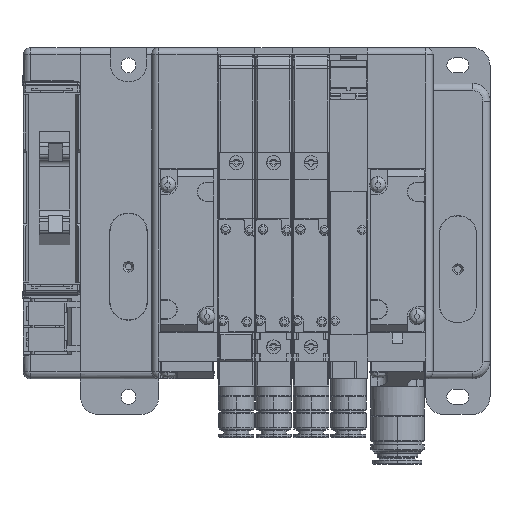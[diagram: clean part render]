
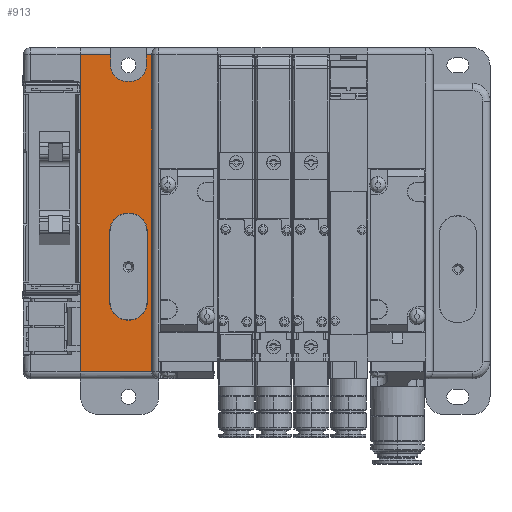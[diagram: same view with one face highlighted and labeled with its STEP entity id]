
A CAD part, front view. The second image highlights one B-rep face of the part: STEP entity #913.
In plain terms, the highlighted planar face has unit normal (0, -1, 0).
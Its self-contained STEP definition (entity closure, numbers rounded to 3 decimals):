
#913=ADVANCED_FACE('',(#2845,#2846),#2844,.F.);
#2844=PLANE('',#21353);
#2845=FACE_OUTER_BOUND('',#21354,.T.);
#2846=FACE_BOUND('',#21355,.T.);
#21350=CARTESIAN_POINT('',(-2.,-35.,-37.7));
#21351=DIRECTION('',(0.,1.,0.));
#21352=DIRECTION('',(0.,0.,1.));
#21353=AXIS2_PLACEMENT_3D('',#21350,#21351,#21352);
#21354=EDGE_LOOP('',(#32394,#32395,#32396,#32397,#32398,#32399,#32400,#32401,#32402,#32403));
#21355=EDGE_LOOP('',(#32404,#32405,#32406,#32407,#32408,#32409,#32410,#32411));
#32394=ORIENTED_EDGE('',*,*,#42188,.T.);
#32395=ORIENTED_EDGE('',*,*,#42183,.F.);
#32396=ORIENTED_EDGE('',*,*,#42180,.T.);
#32397=ORIENTED_EDGE('',*,*,#42177,.F.);
#32398=ORIENTED_EDGE('',*,*,#42173,.T.);
#32399=ORIENTED_EDGE('',*,*,#42214,.T.);
#32400=ORIENTED_EDGE('',*,*,#42215,.T.);
#32401=ORIENTED_EDGE('',*,*,#42216,.F.);
#32402=ORIENTED_EDGE('',*,*,#42217,.F.);
#32403=ORIENTED_EDGE('',*,*,#42218,.T.);
#32404=ORIENTED_EDGE('',*,*,#42219,.F.);
#32405=ORIENTED_EDGE('',*,*,#42220,.F.);
#32406=ORIENTED_EDGE('',*,*,#42221,.F.);
#32407=ORIENTED_EDGE('',*,*,#42222,.F.);
#32408=ORIENTED_EDGE('',*,*,#42223,.F.);
#32409=ORIENTED_EDGE('',*,*,#42224,.F.);
#32410=ORIENTED_EDGE('',*,*,#42225,.F.);
#32411=ORIENTED_EDGE('',*,*,#42226,.F.);
#42173=EDGE_CURVE('',#47116,#47117,#47118,.T.);
#42177=EDGE_CURVE('',#47116,#47143,#47144,.T.);
#42180=EDGE_CURVE('',#47163,#47143,#47164,.T.);
#42183=EDGE_CURVE('',#47163,#47183,#47184,.T.);
#42188=EDGE_CURVE('',#47217,#47183,#47218,.T.);
#42214=EDGE_CURVE('',#47117,#47394,#47395,.T.);
#42215=EDGE_CURVE('',#47394,#47401,#47402,.T.);
#42216=EDGE_CURVE('',#47408,#47401,#47409,.T.);
#42217=EDGE_CURVE('',#47415,#47408,#47416,.T.);
#42218=EDGE_CURVE('',#47415,#47217,#47422,.T.);
#42219=EDGE_CURVE('',#47428,#47429,#47430,.T.);
#42220=EDGE_CURVE('',#47436,#47428,#47437,.T.);
#42221=EDGE_CURVE('',#47443,#47436,#47444,.T.);
#42222=EDGE_CURVE('',#47450,#47443,#47451,.T.);
#42223=EDGE_CURVE('',#47457,#47450,#47458,.T.);
#42224=EDGE_CURVE('',#47464,#47457,#47465,.T.);
#42225=EDGE_CURVE('',#47471,#47464,#47472,.T.);
#42226=EDGE_CURVE('',#47429,#47471,#47478,.T.);
#47116=VERTEX_POINT('',#79967);
#47117=VERTEX_POINT('',#79968);
#47118=LINE('',#79969,#79970);
#47143=VERTEX_POINT('',#79983);
#47144=CIRCLE('',#79987,4.5);
#47163=VERTEX_POINT('',#79996);
#47164=LINE('',#79997,#79998);
#47183=VERTEX_POINT('',#80007);
#47184=CIRCLE('',#80011,4.5);
#47217=VERTEX_POINT('',#80028);
#47218=LINE('',#80029,#80030);
#47394=VERTEX_POINT('',#80133);
#47395=LINE('',#80134,#80135);
#47401=VERTEX_POINT('',#80137);
#47402=LINE('',#80138,#80139);
#47408=VERTEX_POINT('',#80141);
#47409=LINE('',#80142,#80143);
#47415=VERTEX_POINT('',#80145);
#47416=LINE('',#80146,#80147);
#47422=LINE('',#80149,#80150);
#47428=VERTEX_POINT('',#80152);
#47429=VERTEX_POINT('',#80153);
#47430=CIRCLE('',#80157,5.);
#47436=VERTEX_POINT('',#80158);
#47437=LINE('',#80159,#80160);
#47443=VERTEX_POINT('',#80162);
#47444=CIRCLE('',#80166,5.);
#47450=VERTEX_POINT('',#80167);
#47451=LINE('',#80168,#80169);
#47457=VERTEX_POINT('',#80171);
#47458=CIRCLE('',#80175,5.);
#47464=VERTEX_POINT('',#80176);
#47465=LINE('',#80177,#80178);
#47471=VERTEX_POINT('',#80180);
#47472=CIRCLE('',#80184,5.);
#47478=LINE('',#80185,#80186);
#79967=CARTESIAN_POINT('',(8.5,-35.,57.2));
#79968=CARTESIAN_POINT('',(8.5,-35.,60.2));
#79969=CARTESIAN_POINT('',(8.5,-35.,57.2));
#79970=VECTOR('',#79971,3.);
#79971=DIRECTION('',(0.,0.,1.));
#79983=CARTESIAN_POINT('',(13.,-35.,52.7));
#79984=CARTESIAN_POINT('',(13.,-35.,57.2));
#79985=DIRECTION('',(0.,-1.,0.));
#79986=DIRECTION('',(0.,0.,-1.));
#79987=AXIS2_PLACEMENT_3D('',#79984,#79985,#79986);
#79996=CARTESIAN_POINT('',(14.,-35.,52.7));
#79997=CARTESIAN_POINT('',(14.,-35.,52.7));
#79998=VECTOR('',#79999,1.);
#79999=DIRECTION('',(-1.,0.,0.));
#80007=CARTESIAN_POINT('',(18.5,-35.,57.2));
#80008=CARTESIAN_POINT('',(14.,-35.,57.2));
#80009=DIRECTION('',(0.,-1.,0.));
#80010=DIRECTION('',(0.,0.,-1.));
#80011=AXIS2_PLACEMENT_3D('',#80008,#80009,#80010);
#80028=CARTESIAN_POINT('',(18.5,-35.,60.2));
#80029=CARTESIAN_POINT('',(18.5,-35.,60.2));
#80030=VECTOR('',#80031,3.);
#80031=DIRECTION('',(0.,0.,-1.));
#80133=CARTESIAN_POINT('',(0.,-35.,60.2));
#80134=CARTESIAN_POINT('',(8.5,-35.,60.2));
#80135=VECTOR('',#80136,8.5);
#80136=DIRECTION('',(-1.,0.,0.));
#80137=CARTESIAN_POINT('',(0.,-35.,-28.8));
#80138=CARTESIAN_POINT('',(0.,-35.,60.2));
#80139=VECTOR('',#80140,89.);
#80140=DIRECTION('',(0.,0.,-1.));
#80141=CARTESIAN_POINT('',(20.,-35.,-28.8));
#80142=CARTESIAN_POINT('',(20.,-35.,-28.8));
#80143=VECTOR('',#80144,20.);
#80144=DIRECTION('',(-1.,0.,0.));
#80145=CARTESIAN_POINT('',(20.,-35.,60.2));
#80146=CARTESIAN_POINT('',(20.,-35.,60.2));
#80147=VECTOR('',#80148,89.);
#80148=DIRECTION('',(0.,0.,-1.));
#80149=CARTESIAN_POINT('',(20.,-35.,60.2));
#80150=VECTOR('',#80151,1.5);
#80151=DIRECTION('',(-1.,0.,0.));
#80152=CARTESIAN_POINT('',(8.25,-35.,-9.3));
#80153=CARTESIAN_POINT('',(13.25,-35.,-14.3));
#80154=CARTESIAN_POINT('',(13.25,-35.,-9.3));
#80155=DIRECTION('',(0.,-1.,0.));
#80156=DIRECTION('',(0.,0.,-1.));
#80157=AXIS2_PLACEMENT_3D('',#80154,#80155,#80156);
#80158=CARTESIAN_POINT('',(8.25,-35.,10.7));
#80159=CARTESIAN_POINT('',(8.25,-35.,10.7));
#80160=VECTOR('',#80161,20.);
#80161=DIRECTION('',(0.,0.,-1.));
#80162=CARTESIAN_POINT('',(13.25,-35.,15.7));
#80163=CARTESIAN_POINT('',(13.25,-35.,10.7));
#80164=DIRECTION('',(0.,-1.,0.));
#80165=DIRECTION('',(0.,0.,-1.));
#80166=AXIS2_PLACEMENT_3D('',#80163,#80164,#80165);
#80167=CARTESIAN_POINT('',(13.75,-35.,15.7));
#80168=CARTESIAN_POINT('',(13.75,-35.,15.7));
#80169=VECTOR('',#80170,0.5);
#80170=DIRECTION('',(-1.,0.,0.));
#80171=CARTESIAN_POINT('',(18.75,-35.,10.7));
#80172=CARTESIAN_POINT('',(13.75,-35.,10.7));
#80173=DIRECTION('',(0.,-1.,0.));
#80174=DIRECTION('',(0.,0.,-1.));
#80175=AXIS2_PLACEMENT_3D('',#80172,#80173,#80174);
#80176=CARTESIAN_POINT('',(18.75,-35.,-9.3));
#80177=CARTESIAN_POINT('',(18.75,-35.,-9.3));
#80178=VECTOR('',#80179,20.);
#80179=DIRECTION('',(0.,0.,1.));
#80180=CARTESIAN_POINT('',(13.75,-35.,-14.3));
#80181=CARTESIAN_POINT('',(13.75,-35.,-9.3));
#80182=DIRECTION('',(0.,-1.,0.));
#80183=DIRECTION('',(0.,0.,-1.));
#80184=AXIS2_PLACEMENT_3D('',#80181,#80182,#80183);
#80185=CARTESIAN_POINT('',(13.25,-35.,-14.3));
#80186=VECTOR('',#80187,0.5);
#80187=DIRECTION('',(1.,0.,0.));
